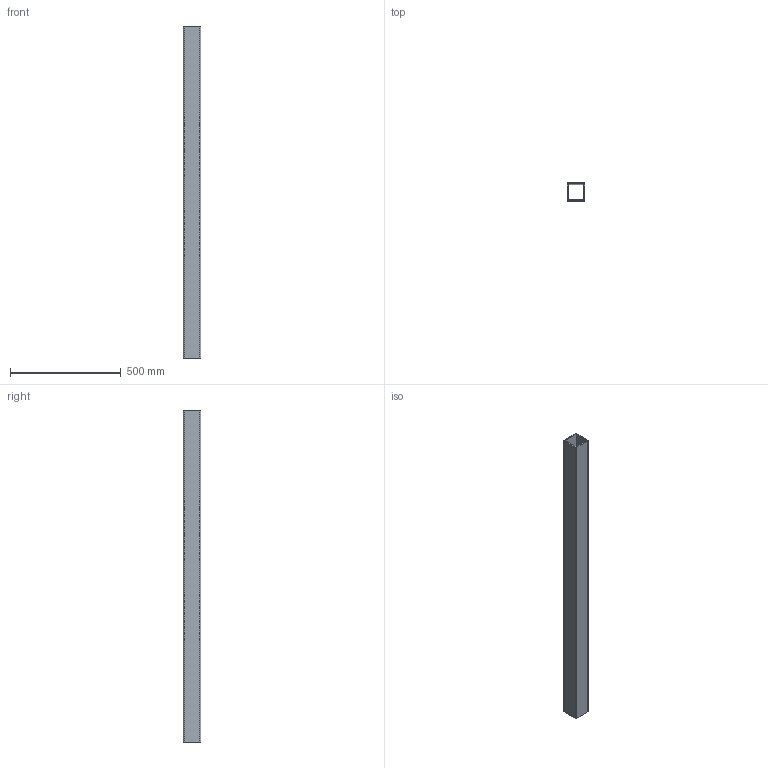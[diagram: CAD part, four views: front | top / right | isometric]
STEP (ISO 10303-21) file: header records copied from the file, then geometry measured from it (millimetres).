
FILE_DESCRIPTION((''),'2;1');
FILE_NAME('9527119000_ROHR1500','2017-06-07T',('Frank.Entorf'),(''),'PRO/ENGINEER BY PARAMETRIC TECHNOLOGY CORPORATION, 2012360','PRO/ENGINEER BY PARAMETRIC TECHNOLOGY CORPORATION, 2012360','');
FILE_SCHEMA(('AUTOMOTIVE_DESIGN { 1 0 10303 214 1 1 1 1 }'));
Length unit declared in the file: millimetre
Products named in the file (1): 9527119000_ROHR1500
Bounding box: 80 x 80 x 1500 mm (x, y, z)
Volume: 2217809.7 mm3; surface area: 890081 mm2
Topology: 1 solids, 1 shells, 14 faces, 36 edges, 24 vertices
Faces by surface type: plane 10, cylinder 4
Entity records: 1054 total; most frequent: COLOUR_RGB 143, CARTESIAN_POINT 76, DIRECTION 72, ORIENTED_EDGE 72, PROPERTY_DEFINITION 61, REPRESENTATION 60, PROPERTY_DEFINITION_REPRESENTATION 60, DESCRIPTIVE_REPRESENTATION_ITEM 52
